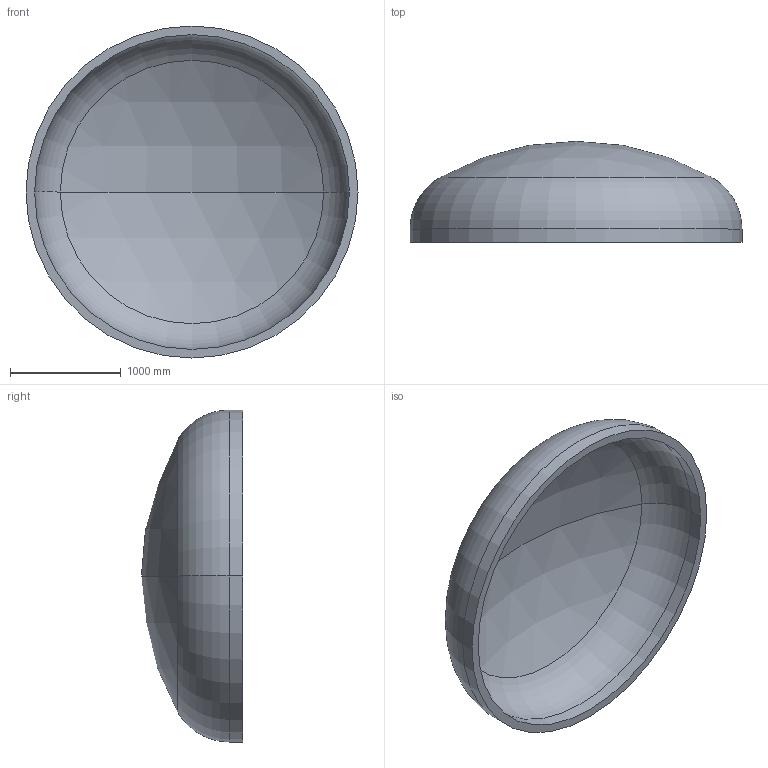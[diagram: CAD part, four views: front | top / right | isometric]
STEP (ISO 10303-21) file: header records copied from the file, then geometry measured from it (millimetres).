
FILE_DESCRIPTION (( 'STEP AP203' ), '1' );
FILE_NAME ('DIN 28013 Korbbogenform_-_Boden DIN 28013 - 3000 x 120 - I - s=78.step', '2016-07-01T18:00:19', ( '' ), ( '' ), 'SwSTEP 2.0', 'SolidWorks 2013', '' );
FILE_SCHEMA (( 'CONFIG_CONTROL_DESIGN' ));
Length unit declared in the file: millimetre
Products named in the file (1): DIN 28013 Korbbogenform_-_Boden DIN 28013 - 3000 x 120 - I - s=78
Bounding box: 3000 x 913.32 x 3000 mm (x, y, z)
Volume: 823312643.6 mm3; surface area: 21839335.2 mm2
Topology: 1 solids, 1 shells, 13 faces, 24 edges, 14 vertices
Faces by surface type: torus 4, cylinder 4, sphere 4, plane 1
Entity records: 407 total; most frequent: DIRECTION 72, CARTESIAN_POINT 52, ORIENTED_EDGE 48, AXIS2_PLACEMENT_3D 34, EDGE_CURVE 24, CIRCLE 20, VERTEX_POINT 14, EDGE_LOOP 14
